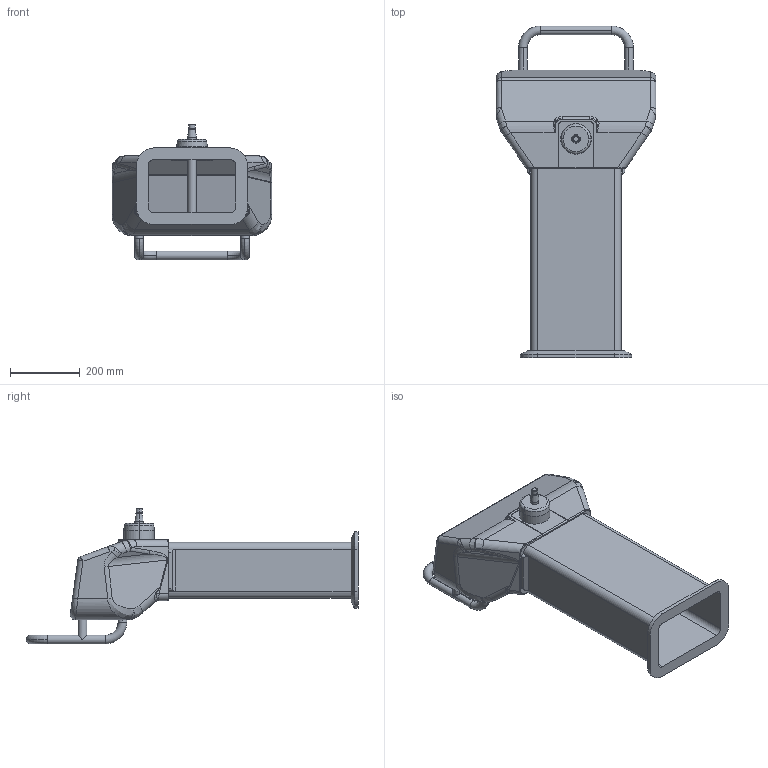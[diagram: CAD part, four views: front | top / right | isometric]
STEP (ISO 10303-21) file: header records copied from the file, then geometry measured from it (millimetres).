
FILE_DESCRIPTION (( 'STEP AP214' ), '1' );
FILE_NAME ('RP300-63.STEP', '2014-09-09T09:33:06', ( '' ), ( '' ), 'SwSTEP 2.0', 'SolidWorks 2014', '' );
FILE_SCHEMA (( 'AUTOMOTIVE_DESIGN' ));
Length unit declared in the file: millimetre
Products named in the file (1): RP300-63
Bounding box: 460 x 955.41 x 390.75 mm (x, y, z)
Volume: 4448720.1 mm3; surface area: 1908071.1 mm2
Topology: 1 solids, 4 shells, 363 faces, 870 edges, 503 vertices
Faces by surface type: cylinder 153, bspline 88, plane 70, torus 24, sphere 16, cone 12
Entity records: 15345 total; most frequent: CARTESIAN_POINT 6777, ORIENTED_EDGE 1704, DIRECTION 1523, EDGE_CURVE 852, AXIS2_PLACEMENT_3D 608, VERTEX_POINT 503, EDGE_LOOP 375, FACE_OUTER_BOUND 363
